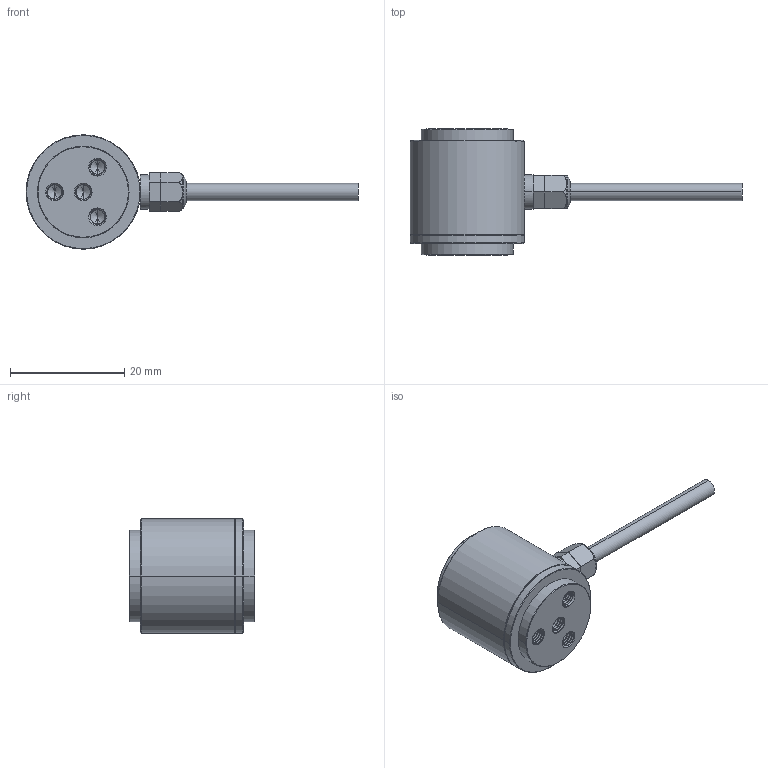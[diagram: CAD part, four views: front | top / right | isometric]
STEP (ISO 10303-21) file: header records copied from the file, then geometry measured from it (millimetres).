
FILE_DESCRIPTION (( 'STEP AP203' ), '1' );
FILE_NAME ('LCF05.STEP', '2024-08-09T02:32:40', ( '' ), ( '' ), 'SwSTEP 2.0', 'SolidWorks 2019', '' );
FILE_SCHEMA (( 'CONFIG_CONTROL_DESIGN' ));
Length unit declared in the file: millimetre
Products named in the file (1): LCF05
Bounding box: 58 x 22 x 20 mm (x, y, z)
Volume: 6537.8 mm3; surface area: 4530.6 mm2
Topology: 4 solids, 4 shells, 256 faces, 652 edges, 401 vertices
Faces by surface type: cylinder 116, plane 63, cone 44, bspline 24, torus 9
Entity records: 21185 total; most frequent: CARTESIAN_POINT 15718, ORIENTED_EDGE 1272, DIRECTION 980, EDGE_CURVE 636, VERTEX_POINT 401, AXIS2_PLACEMENT_3D 359, EDGE_LOOP 269, VECTOR 262
